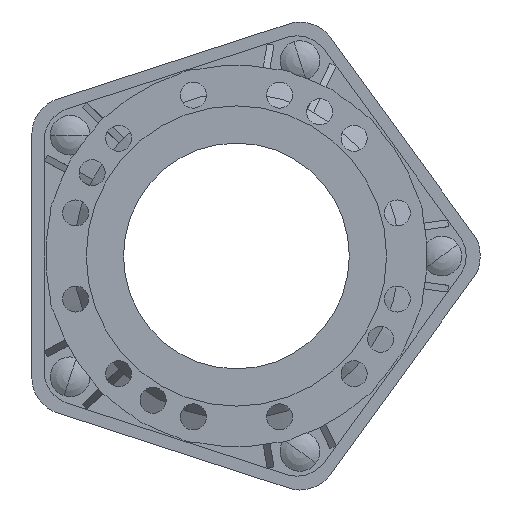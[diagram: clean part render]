
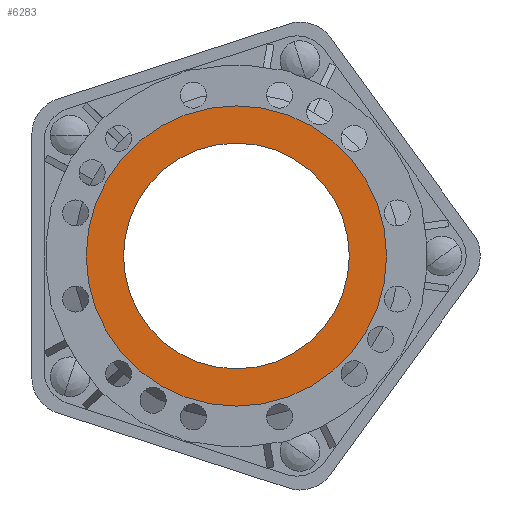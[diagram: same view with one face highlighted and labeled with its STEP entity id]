
A CAD part, front view. The second image highlights one B-rep face of the part: STEP entity #6283.
In plain terms, the highlighted planar face has unit normal (0, -1, 0).
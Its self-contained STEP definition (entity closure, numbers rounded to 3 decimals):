
#2390=CARTESIAN_POINT('',(0.,-66.,0.));
#2391=DIRECTION('',(0.,-1.,0.));
#2392=DIRECTION('',(0.,0.,-1.));
#2393=AXIS2_PLACEMENT_3D('',#2390,#2391,#2392);
#2404=CARTESIAN_POINT('',(0.,-66.,0.));
#2405=DIRECTION('',(0.,1.,0.));
#2406=DIRECTION('',(0.,0.,-1.));
#2407=AXIS2_PLACEMENT_3D('',#2404,#2405,#2406);
#2409=CARTESIAN_POINT('',(0.,-66.,0.));
#2410=DIRECTION('',(0.,-1.,0.));
#2411=DIRECTION('',(-1.,0.,0.));
#2412=AXIS2_PLACEMENT_3D('',#2409,#2410,#2411);
#2419=CARTESIAN_POINT('',(0.,-66.,0.));
#2420=DIRECTION('',(0.,1.,0.));
#2421=DIRECTION('',(-1.,0.,0.));
#2422=AXIS2_PLACEMENT_3D('',#2419,#2420,#2421);
#2796=CARTESIAN_POINT('',(0.,-66.,-133.));
#2797=VERTEX_POINT('',#2796);
#2798=CARTESIAN_POINT('',(-133.,-66.,0.));
#2799=VERTEX_POINT('',#2798);
#2800=CARTESIAN_POINT('',(-100.,-66.,0.));
#2801=CARTESIAN_POINT('',(0.,-66.,-100.));
#2802=VERTEX_POINT('',#2800);
#2803=VERTEX_POINT('',#2801);
#6268=CARTESIAN_POINT('',(0.,-66.,0.));
#6269=DIRECTION('',(0.,-1.,0.));
#6270=DIRECTION('',(0.,0.,-1.));
#6271=AXIS2_PLACEMENT_3D('',#6268,#6269,#6270);
#6272=PLANE('',#6271);
#6273=ORIENTED_EDGE('',*,*,#6261,.F.);
#6274=ORIENTED_EDGE('',*,*,#6248,.F.);
#6275=EDGE_LOOP('',(#6273,#6274));
#6276=FACE_OUTER_BOUND('',#6275,.F.);
#6278=ORIENTED_EDGE('',*,*,#6277,.F.);
#6280=ORIENTED_EDGE('',*,*,#6279,.F.);
#6281=EDGE_LOOP('',(#6278,#6280));
#6282=FACE_BOUND('',#6281,.F.);
#6283=ADVANCED_FACE('',(#6276,#6282),#6272,.T.);
#2394=CIRCLE('',#2393,133.);
#2408=CIRCLE('',#2407,100.);
#2413=CIRCLE('',#2412,133.);
#2423=CIRCLE('',#2422,100.);
#6248=EDGE_CURVE('',#2799,#2797,#2413,.T.);
#6261=EDGE_CURVE('',#2797,#2799,#2394,.T.);
#6277=EDGE_CURVE('',#2802,#2803,#2423,.T.);
#6279=EDGE_CURVE('',#2803,#2802,#2408,.T.);
